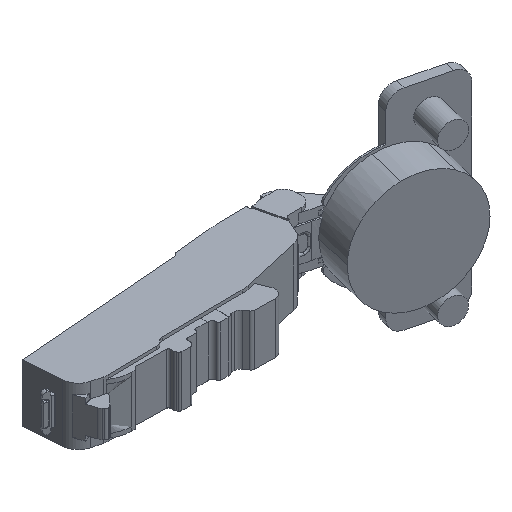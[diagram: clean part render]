
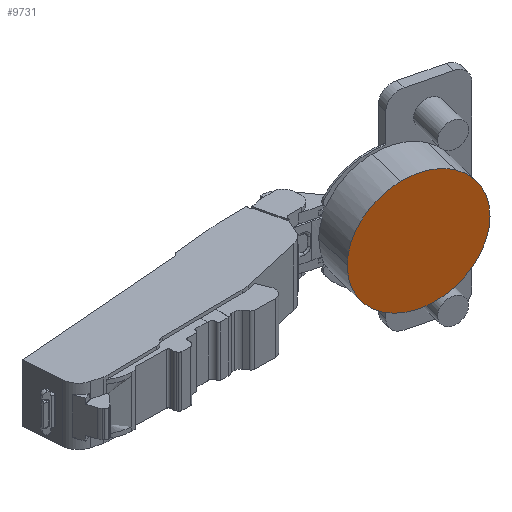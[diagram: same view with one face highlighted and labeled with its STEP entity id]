
A CAD part, isometric view. The second image highlights one B-rep face of the part: STEP entity #9731.
In plain terms, the highlighted planar face has unit normal (-0.242, -0.97, 0).
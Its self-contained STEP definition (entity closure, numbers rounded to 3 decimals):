
#97 = DIRECTION ( 'NONE',  ( 0.242, 0.97, 0. ) ) ;
#103 = CARTESIAN_POINT ( 'NONE',  ( 12.872, 9.314, 17.475 ) ) ;
#161 = CARTESIAN_POINT ( 'NONE',  ( 15.022, 8.778, 18.095 ) ) ;
#193 = CIRCLE ( 'NONE', #4333, 17.401 ) ;
#232 = CARTESIAN_POINT ( 'NONE',  ( 19.504, 7.661, 18.356 ) ) ;
#337 = VERTEX_POINT ( 'NONE', #1726 ) ;
#417 = CARTESIAN_POINT ( 'NONE',  ( 7.512, 10.65, 14.439 ) ) ;
#565 = CARTESIAN_POINT ( 'NONE',  ( 29.259, 5.229, 14.128 ) ) ;
#688 = CARTESIAN_POINT ( 'NONE',  ( 34.816, 3.843, 4.686 ) ) ;
#723 = DIRECTION ( 'NONE',  ( 0.97, -0.242, 0. ) ) ;
#768 = ORIENTED_EDGE ( 'NONE', *, *, #2917, .T. ) ;
#899 = VERTEX_POINT ( 'NONE', #103 ) ;
#1020 = VERTEX_POINT ( 'NONE', #7979 ) ;
#1049 = VERTEX_POINT ( 'NONE', #1270 ) ;
#1063 = EDGE_CURVE ( 'NONE', #899, #337, #8855, .T. ) ;
#1075 = CARTESIAN_POINT ( 'NONE',  ( 21.736, 7.104, 18.024 ) ) ;
#1140 = CARTESIAN_POINT ( 'NONE',  ( 22.826, 6.833, 17.745 ) ) ;
#1231 = VERTEX_POINT ( 'NONE', #8687 ) ;
#1270 = CARTESIAN_POINT ( 'NONE',  ( 35.092, 3.775, 0.967 ) ) ;
#1328 = CARTESIAN_POINT ( 'NONE',  ( 6.847, 10.816, 13.846 ) ) ;
#1608 = CARTESIAN_POINT ( 'NONE',  ( 31.336, 4.711, 12.013 ) ) ;
#1726 = CARTESIAN_POINT ( 'NONE',  ( 1.325, 12.193, 0.967 ) ) ;
#1783 = EDGE_CURVE ( 'NONE', #11646, #1231, #5414, .T. ) ;
#2079 = ORIENTED_EDGE ( 'NONE', *, *, #1063, .T. ) ;
#2316 = CARTESIAN_POINT ( 'NONE',  ( 2.425, 11.918, 7.161 ) ) ;
#2487 = CARTESIAN_POINT ( 'NONE',  ( 26.929, 5.81, 15.867 ) ) ;
#2515 = DIRECTION ( 'NONE',  ( 0.97, -0.242, 0. ) ) ;
#2692 = EDGE_CURVE ( 'NONE', #1049, #7420, #8963, .T. ) ;
#2807 = CARTESIAN_POINT ( 'NONE',  ( 18.208, 7.984, 0.967 ) ) ;
#2855 = VERTEX_POINT ( 'NONE', #4816 ) ;
#2917 = EDGE_CURVE ( 'NONE', #11646, #1049, #6983, .T. ) ;
#3383 = CARTESIAN_POINT ( 'NONE',  ( 2.763, 11.834, 8.009 ) ) ;
#3421 = CARTESIAN_POINT ( 'NONE',  ( 33.577, 4.152, 8.209 ) ) ;
#3507 = DIRECTION ( 'NONE',  ( -0.242, -0.97, 0. ) ) ;
#3538 = CARTESIAN_POINT ( 'NONE',  ( 30.061, 5.029, 13.363 ) ) ;
#3783 = EDGE_CURVE ( 'NONE', #7420, #2855, #9401, .T. ) ;
#3951 = CARTESIAN_POINT ( 'NONE',  ( 35.092, 3.775, 0.967 ) ) ;
#4055 = CARTESIAN_POINT ( 'NONE',  ( 26.929, 5.81, 15.867 ) ) ;
#4077 = ORIENTED_EDGE ( 'NONE', *, *, #9631, .T. ) ;
#4175 = CARTESIAN_POINT ( 'NONE',  ( 6.523, 10.897, 13.534 ) ) ;
#4299 = VERTEX_POINT ( 'NONE', #11660 ) ;
#4333 = AXIS2_PLACEMENT_3D ( 'NONE', #6126, #9868, #6184 ) ;
#4816 = CARTESIAN_POINT ( 'NONE',  ( 13.931, 9.05, 17.8 ) ) ;
#4850 = CARTESIAN_POINT ( 'NONE',  ( 25.964, 6.05, 16.468 ) ) ;
#4905 = CARTESIAN_POINT ( 'NONE',  ( 13.221, 9.227, 17.595 ) ) ;
#4911 = DIRECTION ( 'NONE',  ( 0., 0., 1. ) ) ;
#4974 = CARTESIAN_POINT ( 'NONE',  ( 13.931, 9.05, 17.8 ) ) ;
#5092 = CARTESIAN_POINT ( 'NONE',  ( 4.448, 11.414, 11.177 ) ) ;
#5216 = CARTESIAN_POINT ( 'NONE',  ( 12.454, 9.418, 17.332 ) ) ;
#5414 = LINE ( 'NONE', #6587, #6901 ) ;
#5646 = CARTESIAN_POINT ( 'NONE',  ( 28.849, 5.331, -6.733 ) ) ;
#5732 = AXIS2_PLACEMENT_3D ( 'NONE', #10934, #3507, #2515 ) ;
#5838 = CARTESIAN_POINT ( 'NONE',  ( 18.382, 7.94, 18.406 ) ) ;
#6044 = ORIENTED_EDGE ( 'NONE', *, *, #8558, .F. ) ;
#6079 = CARTESIAN_POINT ( 'NONE',  ( 1.325, 12.193, 0.967 ) ) ;
#6115 = ORIENTED_EDGE ( 'NONE', *, *, #2692, .T. ) ;
#6126 = CARTESIAN_POINT ( 'NONE',  ( 18.208, 7.984, 0.967 ) ) ;
#6175 = CARTESIAN_POINT ( 'NONE',  ( 34.128, 4.015, 6.811 ) ) ;
#6184 = DIRECTION ( 'NONE',  ( 0.97, -0.242, 0. ) ) ;
#6361 = CARTESIAN_POINT ( 'NONE',  ( 28.432, 5.435, 14.852 ) ) ;
#6556 = DIRECTION ( 'NONE',  ( 0.97, -0.242, 0. ) ) ;
#6587 = CARTESIAN_POINT ( 'NONE',  ( 28.849, 5.331, -16.163 ) ) ;
#6697 = VECTOR ( 'NONE', #6877, 1000. ) ;
#6747 = ORIENTED_EDGE ( 'NONE', *, *, #8598, .T. ) ;
#6823 = CARTESIAN_POINT ( 'NONE',  ( 16.131, 8.502, 18.275 ) ) ;
#6877 = DIRECTION ( 'NONE',  ( 0.97, -0.242, 0. ) ) ;
#6901 = VECTOR ( 'NONE', #723, 1000. ) ;
#6951 = CARTESIAN_POINT ( 'NONE',  ( 10.022, 10.024, 16.234 ) ) ;
#6983 = CIRCLE ( 'NONE', #11289, 17.4 ) ;
#7040 = CARTESIAN_POINT ( 'NONE',  ( 21.174, 7.244, -16.163 ) ) ;
#7116 = CARTESIAN_POINT ( 'NONE',  ( 33.261, 4.231, 8.884 ) ) ;
#7136 = CARTESIAN_POINT ( 'NONE',  ( 1.325, 12.193, 2.801 ) ) ;
#7225 = CARTESIAN_POINT ( 'NONE',  ( 29.798, 5.095, 13.626 ) ) ;
#7420 = VERTEX_POINT ( 'NONE', #4055 ) ;
#7490 = AXIS2_PLACEMENT_3D ( 'NONE', #5646, #97, #4911 ) ;
#7693 = CARTESIAN_POINT ( 'NONE',  ( 35.092, 3.775, 2.477 ) ) ;
#7730 = CARTESIAN_POINT ( 'NONE',  ( 24.949, 6.303, 16.963 ) ) ;
#7782 = LINE ( 'NONE', #10674, #6697 ) ;
#7830 = ORIENTED_EDGE ( 'NONE', *, *, #1783, .F. ) ;
#7841 = CARTESIAN_POINT ( 'NONE',  ( 13.574, 9.139, 17.703 ) ) ;
#7857 = CARTESIAN_POINT ( 'NONE',  ( 12.039, 9.522, 17.17 ) ) ;
#7914 = CARTESIAN_POINT ( 'NONE',  ( 2.947, 11.788, 8.424 ) ) ;
#7979 = CARTESIAN_POINT ( 'NONE',  ( 15.234, 8.725, -16.163 ) ) ;
#8322 = CARTESIAN_POINT ( 'NONE',  ( 27.547, 5.656, 15.486 ) ) ;
#8433 = DIRECTION ( 'NONE',  ( -0.242, -0.97, 0. ) ) ;
#8558 = EDGE_CURVE ( 'NONE', #1020, #4299, #7782, .T. ) ;
#8583 = FACE_OUTER_BOUND ( 'NONE', #8772, .T. ) ;
#8584 = CARTESIAN_POINT ( 'NONE',  ( 26.929, 5.81, 15.867 ) ) ;
#8598 = EDGE_CURVE ( 'NONE', #2855, #899, #11365, .T. ) ;
#8687 = CARTESIAN_POINT ( 'NONE',  ( 21.182, 7.242, -16.163 ) ) ;
#8701 = CARTESIAN_POINT ( 'NONE',  ( 12.872, 9.314, 17.475 ) ) ;
#8772 = EDGE_LOOP ( 'NONE', ( #7830, #768, #6115, #9481, #6747, #2079, #4077, #6044, #11586 ) ) ;
#8800 = EDGE_CURVE ( 'NONE', #1020, #1231, #193, .T. ) ;
#8833 = CARTESIAN_POINT ( 'NONE',  ( 11.221, 9.726, 16.813 ) ) ;
#8855 = B_SPLINE_CURVE_WITH_KNOTS ( 'NONE', 3,
 ( #9761, #5216, #7857, #8833, #6951, #11785, #417, #1328, #4175, #10690, #5092, #9877, #7914, #3383, #2316, #11667, #7136, #6079 ),
 .UNSPECIFIED., .F., .F.,
 ( 4, 2, 1, 1, 2, 2, 1, 2, 2, 1, 4 ),
 ( 0.603, 0.627, 0.652, 0.702, 0.727, 0.752, 0.801, 0.851, 0.876, 0.901, 1. ),
 .UNSPECIFIED. ) ;
#8963 = B_SPLINE_CURVE_WITH_KNOTS ( 'NONE', 3,
 ( #3951, #7693, #688, #6175, #3421, #7116, #10048, #1608, #3538, #7225, #565, #6361, #8322, #2487 ),
 .UNSPECIFIED., .F., .F.,
 ( 4, 1, 2, 2, 2, 2, 1, 4 ),
 ( 0., 0.082, 0.123, 0.164, 0.246, 0.266, 0.286, 0.327 ),
 .UNSPECIFIED. ) ;
#9401 = B_SPLINE_CURVE_WITH_KNOTS ( 'NONE', 3,
 ( #8584, #4850, #7730, #1140, #1075, #232, #5838, #6823, #161, #4974 ),
 .UNSPECIFIED., .F., .F.,
 ( 4, 2, 2, 2, 4 ),
 ( 0., 0.25, 0.5, 0.75, 1. ),
 .UNSPECIFIED. ) ;
#9481 = ORIENTED_EDGE ( 'NONE', *, *, #3783, .T. ) ;
#9631 = EDGE_CURVE ( 'NONE', #337, #4299, #10237, .T. ) ;
#9636 = CARTESIAN_POINT ( 'NONE',  ( 13.931, 9.05, 17.8 ) ) ;
#9731 = ADVANCED_FACE ( 'NONE', ( #8583 ), #10563, .F. ) ;
#9761 = CARTESIAN_POINT ( 'NONE',  ( 12.872, 9.314, 17.475 ) ) ;
#9868 = DIRECTION ( 'NONE',  ( -0.242, -0.97, 0. ) ) ;
#9877 = CARTESIAN_POINT ( 'NONE',  ( 3.541, 11.64, 9.638 ) ) ;
#10048 = CARTESIAN_POINT ( 'NONE',  ( 32.199, 4.496, 10.826 ) ) ;
#10237 = CIRCLE ( 'NONE', #5732, 17.4 ) ;
#10563 = PLANE ( 'NONE',  #7490 ) ;
#10674 = CARTESIAN_POINT ( 'NONE',  ( 28.849, 5.331, -16.163 ) ) ;
#10690 = CARTESIAN_POINT ( 'NONE',  ( 5.585, 11.131, 12.558 ) ) ;
#10934 = CARTESIAN_POINT ( 'NONE',  ( 18.208, 7.984, 0.967 ) ) ;
#11289 = AXIS2_PLACEMENT_3D ( 'NONE', #2807, #8433, #6556 ) ;
#11365 = B_SPLINE_CURVE_WITH_KNOTS ( 'NONE', 3,
 ( #9636, #7841, #4905, #8701 ),
 .UNSPECIFIED., .F., .F.,
 ( 4, 4 ),
 ( 0., 1. ),
 .UNSPECIFIED. ) ;
#11586 = ORIENTED_EDGE ( 'NONE', *, *, #8800, .T. ) ;
#11646 = VERTEX_POINT ( 'NONE', #7040 ) ;
#11660 = CARTESIAN_POINT ( 'NONE',  ( 15.242, 8.723, -16.163 ) ) ;
#11667 = CARTESIAN_POINT ( 'NONE',  ( 1.663, 12.108, 5.025 ) ) ;
#11785 = CARTESIAN_POINT ( 'NONE',  ( 8.539, 10.394, 15.285 ) ) ;
